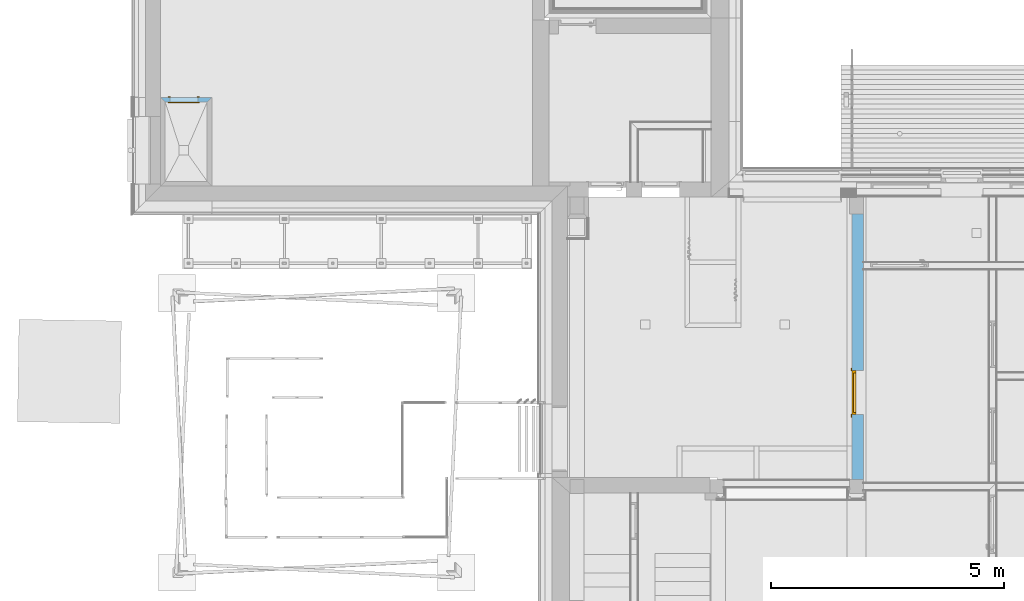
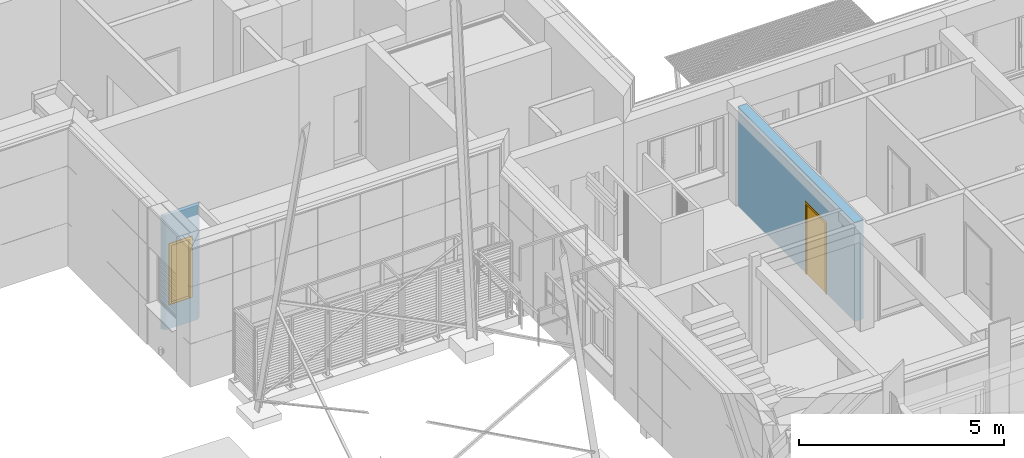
# One storey, part 88 of 418: 2 doors, 2 openings, plus 2 elements that do not belong to this part.
"""IFC2X3 building model written with IfcOpenShell, lengths in millimetres."""

from ifc_helpers import new_model, entity, si_unit, converted_unit, derived_unit, money_unit, direction, frame, origin_with_axes, origin_2d_with_axis, place, context, subcontext, project, spatial, polyline, rectangle, outline, extrude, faceted_brep, material, layer, layer_set, layer_usage, type_object, element, fill, save


model = new_model("IFC2X3")

# Units and contexts
model_context = context("Model", 3, precision=0.01, world=origin_with_axes(), true_north=direction((0.0, 1.0)))
body_context = subcontext(model_context, "Body", "Model", "MODEL_VIEW")
ifc_project = project(units=[si_unit("LENGTHUNIT", "METRE", prefix="MILLI"), si_unit("AREAUNIT", "SQUARE_METRE"), si_unit("VOLUMEUNIT", "CUBIC_METRE"), converted_unit("PLANEANGLEUNIT", "DEGREE", entity("IfcPlaneAngleMeasure", 0.0174532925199), si_unit("PLANEANGLEUNIT", "RADIAN"), dimensions=[0, 0, 0, 0, 0, 0, 0]), si_unit("SOLIDANGLEUNIT", "STERADIAN"), money_unit("EUR"), converted_unit("TIMEUNIT", "Year", entity("IfcTimeMeasure", 31556926.0), si_unit("TIMEUNIT", "SECOND"), dimensions=[0, 0, 1, 0, 0, 0, 0]), si_unit("MASSUNIT", "GRAM", prefix="KILO"), si_unit("THERMODYNAMICTEMPERATUREUNIT", "DEGREE_CELSIUS"), si_unit("LUMINOUSINTENSITYUNIT", "LUMEN"), si_unit("ENERGYUNIT", "JOULE", prefix="MEGA"), derived_unit("THERMALCONDUCTANCEUNIT", [(si_unit("POWERUNIT", "WATT"), 1), (si_unit("LENGTHUNIT", "METRE"), -1), (si_unit("THERMODYNAMICTEMPERATUREUNIT", "KELVIN"), -1)]), derived_unit("SPECIFICHEATCAPACITYUNIT", [(si_unit("ENERGYUNIT", "JOULE"), 1), (si_unit("MASSUNIT", "GRAM", prefix="KILO"), -1), (si_unit("THERMODYNAMICTEMPERATUREUNIT", "KELVIN"), -1)]), derived_unit("MASSDENSITYUNIT", [(si_unit("MASSUNIT", "GRAM", prefix="KILO"), 1), (si_unit("VOLUMEUNIT", "CUBIC_METRE"), -1)])], contexts=[model_context])

# Site, building, storey
site_placement = place(None, origin_with_axes())
site = spatial("IfcSite", under=ifc_project, at=site_placement, Name="Paldiski mnt 245/1, Tallinn, Harjumaa", CompositionType="COMPLEX")
building_placement = place(site_placement, origin_with_axes())
building = spatial("IfcBuilding", under=site, at=building_placement, Name="RKAS Hoone üldnimetus (kasutust iseloomustav) -> IFC Project Manager -> SOLIBRI", CompositionType="ELEMENT")
storey_placement = place(building_placement, origin_with_axes())
storey = spatial("IfcBuildingStorey", under=building, at=storey_placement, Name="Esimene korrus", CompositionType="ELEMENT", Elevation=0.0)

# Wall, opening, door
ifc_material_1 = material(Name="Olemasolev silikaattellis")
ifc_layer_1 = layer(ifc_material_1, 250.0, ventilated="UNKNOWN")
ifc_layer_set_1 = layer_set([ifc_layer_1], Name="Olemasolev silikaattellis 250")
ifc_layer_usage_1 = layer_usage(ifc_layer_set_1, "AXIS2", "NEGATIVE", 0.0)
wall_type_1 = type_object("IfcWallType", Name="Olemasolev silikaattellis 250", PredefinedType="NOTDEFINED")
wall_1_placement = place(storey_placement, frame((-41290.0, -469.999999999, 0.0), z_axis=(0.0, 0.0, 1.0), x_axis=(0.0, -1.0, 0.0)))
wall_1 = element("IfcWallStandardCase", 1, at=wall_1_placement, inside=storey, type_object=wall_type_1, material=ifc_layer_usage_1, Name="SS-01", context=body_context, shape_type="SweptSolid", body=[
    extrude(outline(polyline([(0.0, -250.0), (5710.0, -250.0), (5710.0, 0.0), (0.0, 0.0), (0.0, -250.0)])), origin_with_axes(), (0.0, 0.0, 1.0), 2958.99991095),
])
opening_1_placement = place(wall_1_placement, frame((3840.0, 0.0, 0.0), z_axis=(0.0, 0.0, 1.0), x_axis=(1.0, 0.0, 0.0)))
opening_1 = element("IfcOpeningElement", 2, at=opening_1_placement, cuts=wall_1, Name="SU-07v", context=body_context, shape_type="SweptSolid", body=[
    extrude(rectangle(XDim=950.0, YDim=2100.0, at=origin_2d_with_axis()), frame((0.0, -155.0, 1050.0), z_axis=(0.0, -1.0, 0.0), x_axis=(-1.0, 0.0, 0.0)), (0.0, 0.0, -1.0), 405.0),
    extrude(rectangle(XDim=950.0, YDim=2100.0, at=origin_2d_with_axis()), frame((0.0, -155.0, 1050.0), z_axis=(0.0, 1.0, 0.0), x_axis=(-1.0, 0.0, 0.0)), (0.0, 0.0, -1.0), 345.0),
    extrude(rectangle(XDim=1064.0, YDim=2157.0, at=origin_2d_with_axis()), frame((0.0, -250.0, 1078.5), z_axis=(0.0, 1.0, 0.0), x_axis=(-1.0, 0.0, 0.0)), (0.0, 0.0, -1.0), 405.0),
])
door_style_1 = type_object("IfcDoorStyle", Name="Door 23", ConstructionType="NOTDEFINED", OperationType="SINGLE_SWING_RIGHT", ParameterTakesPrecedence=False, Sizeable=False)
door_1_placement = place(opening_1_placement, frame((475.0, 0.0, 0.0), z_axis=(0.0, 0.0, 1.0), x_axis=(-1.0, 0.0, 0.0)))
door_1 = element("IfcDoor", 3, at=door_1_placement, inside=storey, type_object=door_style_1, Name="SU-07v", ObjectType="DOOR", OverallHeight=2100.0, OverallWidth=950.0, context=body_context, shape_type="Brep", body=[
    faceted_brep([(900.0, 155.0, 0.0), (900.0, 210.0, 0.0), (900.0, 210.0, 20.0), (900.0, 155.0, 20.0), (50.0, 155.0, 0.0), (50.0, 210.0, 0.0), (38.0, 210.0, 0.0), (912.0, 210.0, 0.0), (912.0, 210.0, 20.0), (38.0, 210.0, 20.0), (50.0, 210.0, 20.0), (50.0, 155.0, 20.0)], [[[0, 1, 2, 3]], [[0, 4, 5, 6, 7, 1]], [[1, 7, 8, 2]], [[3, 2, 8, 9, 10, 11]], [[4, 0, 3, 11]], [[5, 4, 11, 10]], [[6, 5, 10, 9]], [[7, 6, 9, 8]]]),
    faceted_brep([(-57.0, 269.0, 0.0), (13.0, 269.0, 0.0), (13.0, 250.0, 0.0), (-57.0, 250.0, 0.0), (-57.0, 269.0, 2157.0), (13.0, 269.0, 2087.0), (13.0, 250.0, 2087.0), (-57.0, 250.0, 2157.0)], [[[0, 1, 2, 3]], [[0, 4, 5, 1]], [[1, 5, 6, 2]], [[3, 2, 6, 7]], [[4, 0, 3, 7]], [[5, 4, 7, 6]]]),
    faceted_brep([(1007.0, 269.0, 2157.0), (937.0, 269.0, 2087.0), (937.0, 250.0, 2087.0), (1007.0, 250.0, 2157.0), (1007.0, 269.0, 0.0), (937.0, 269.0, 0.0), (937.0, 250.0, 0.0), (1007.0, 250.0, 0.0)], [[[0, 1, 2, 3]], [[0, 4, 5, 1]], [[1, 5, 6, 2]], [[3, 2, 6, 7]], [[4, 0, 3, 7]], [[5, 4, 7, 6]]]),
    faceted_brep([(-57.0, 269.0, 2157.0), (13.0, 269.0, 2087.0), (13.0, 250.0, 2087.0), (-57.0, 250.0, 2157.0), (1007.0, 269.0, 2157.0), (937.0, 269.0, 2087.0), (937.0, 250.0, 2087.0), (1007.0, 250.0, 2157.0)], [[[0, 1, 2, 3]], [[0, 4, 5, 1]], [[1, 5, 6, 2]], [[3, 2, 6, 7]], [[4, 0, 3, 7]], [[5, 4, 7, 6]]]),
    faceted_brep([(50.0, 210.0, 0.0), (50.0, 210.0, 2050.0), (50.0, 155.0, 2050.0), (50.0, 155.0, 0.0), (38.0, 210.0, 2050.0), (38.0, 210.0, 0.0), (38.0, 250.0, 2050.0), (0.0, 250.0, 2050.0), (0.0, 155.0, 2050.0), (0.0, 155.0, 0.0), (0.0, 250.0, 0.0), (38.0, 250.0, 0.0)], [[[0, 1, 2, 3]], [[4, 1, 0, 5]], [[4, 6, 7, 8, 2, 1]], [[3, 2, 8, 9]], [[5, 0, 3, 9, 10, 11]], [[6, 4, 5, 11]], [[6, 11, 10, 7]], [[10, 9, 8, 7]]]),
    faceted_brep([(912.0, 210.0, 2050.0), (900.0, 210.0, 2050.0), (900.0, 155.0, 2050.0), (950.0, 155.0, 2050.0), (950.0, 250.0, 2050.0), (912.0, 250.0, 2050.0), (912.0, 210.0, 0.0), (900.0, 210.0, 0.0), (900.0, 155.0, 0.0), (950.0, 155.0, 0.0), (950.0, 250.0, 0.0), (912.0, 250.0, 0.0)], [[[0, 1, 2, 3, 4, 5]], [[1, 0, 6, 7]], [[1, 7, 8, 2]], [[3, 2, 8, 9]], [[4, 3, 9, 10]], [[11, 5, 4, 10]], [[0, 5, 11, 6]], [[6, 11, 10, 9, 8, 7]]]),
    faceted_brep([(38.0, 250.0, 2062.0), (38.0, 250.0, 2050.0), (0.0, 250.0, 2050.0), (0.0, 250.0, 2100.0), (950.0, 250.0, 2100.0), (950.0, 250.0, 2050.0), (912.0, 250.0, 2050.0), (912.0, 250.0, 2062.0), (38.0, 210.0, 2062.0), (38.0, 210.0, 2050.0), (50.0, 210.0, 2050.0), (50.0, 155.0, 2050.0), (0.0, 155.0, 2050.0), (0.0, 155.0, 2100.0), (950.0, 155.0, 2100.0), (950.0, 155.0, 2050.0), (912.0, 210.0, 2050.0), (900.0, 155.0, 2050.0), (900.0, 210.0, 2050.0), (912.0, 210.0, 2062.0)], [[[0, 1, 2, 3, 4, 5, 6, 7]], [[1, 0, 8, 9]], [[9, 10, 11, 12, 2, 1]], [[2, 12, 13, 3]], [[3, 13, 14, 4]], [[4, 14, 15, 5]], [[16, 6, 5, 15, 17, 18]], [[7, 6, 16, 19]], [[0, 7, 19, 8]], [[16, 18, 10, 9, 8, 19]], [[10, 18, 17, 11]], [[17, 15, 14, 13, 12, 11]]]),
    faceted_brep([(912.0, 250.0, 0.0), (912.0, 210.0, 0.0), (38.0, 210.0, 0.0), (38.0, 250.0, 0.0), (912.0, 250.0, 2062.0), (912.0, 210.0, 2062.0), (38.0, 210.0, 2062.0), (38.0, 250.0, 2062.0)], [[[0, 1, 2, 3]], [[4, 5, 1, 0]], [[1, 5, 6, 2]], [[3, 2, 6, 7]], [[0, 3, 7, 4]], [[7, 6, 5, 4]]]),
])
fill(opening_1, door_1)

ifc_material_2 = material(Name="SP2B E-PIR")
ifc_layer_2 = layer(ifc_material_2, 100.0, ventilated="UNKNOWN")
ifc_layer_set_2 = layer_set([ifc_layer_2], Name="SS-13")
ifc_layer_usage_2 = layer_usage(ifc_layer_set_2, "AXIS2", "NEGATIVE", 100.0)
wall_type_2 = type_object("IfcWallType", Name="SS-13 100", PredefinedType="NOTDEFINED")
wall_2_placement = place(storey_placement, frame((-56290.0, 1929.99992126, 0.0), z_axis=(0.0, 0.0, 1.0), x_axis=(1.0, 0.0, 0.0)))
wall_2 = element("IfcWallStandardCase", 4, at=wall_2_placement, inside=storey, type_object=wall_type_2, material=ifc_layer_usage_2, Name="SS-13", context=body_context, shape_type="SweptSolid", body=[
    extrude(outline(polyline([(0.0, 0.0), (900.000023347, 0.0), (1000.00002335, 100.0), (-100.0, 100.0), (0.0, 0.0)])), origin_with_axes(), (0.0, 0.0, 1.0), 3411.80696097),
])
opening_2_placement = place(wall_2_placement, frame((400.000023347, 0.0, 723.0), z_axis=(0.0, 0.0, 1.0), x_axis=(1.0, 0.0, 0.0)))
opening_2 = element("IfcOpeningElement", 5, at=opening_2_placement, cuts=wall_2, Name="SU-16v", context=body_context, shape_type="SweptSolid", body=[
    extrude(rectangle(XDim=600.0, YDim=1800.0, at=origin_2d_with_axis()), frame((0.0, -100.0, 900.0), z_axis=(0.0, -1.0, 0.0), x_axis=(-1.0, 0.0, 0.0)), (0.0, 0.0, -1.0), 300.0),
    extrude(rectangle(XDim=674.0, YDim=1837.0, at=origin_2d_with_axis()), frame((0.0, 0.0, 918.5), z_axis=(0.0, -1.0, 0.0), x_axis=(-1.0, 0.0, 0.0)), (0.0, 0.0, 1.0), 100.0),
    extrude(rectangle(XDim=674.0, YDim=1837.0, at=origin_2d_with_axis()), frame((0.0, 100.0, 918.5), z_axis=(0.0, 1.0, 0.0), x_axis=(-1.0, 0.0, 0.0)), (0.0, 0.0, 1.0), 100.0),
])
door_style_2 = type_object("IfcDoorStyle", Name="Door 23", ConstructionType="NOTDEFINED", OperationType="SINGLE_SWING_LEFT", ParameterTakesPrecedence=False, Sizeable=False)
door_2_placement = place(opening_2_placement, frame((-300.0, 0.0, 0.0), z_axis=(0.0, 0.0, 1.0), x_axis=(1.0, 0.0, 0.0)))
door_2 = element("IfcDoor", 6, at=door_2_placement, inside=storey, type_object=door_style_2, Name="SU-16v", ObjectType="DOOR", OverallHeight=1800.0, OverallWidth=600.0, context=body_context, shape_type="Brep", body=[
    faceted_brep([(28.0, 60.0, 0.0), (40.0, 60.0, 0.0), (40.0, 60.0, 20.0), (28.0, 60.0, 20.0), (572.0, 60.0, 0.0), (560.0, 60.0, 0.0), (560.0, -15.0, 0.0), (40.0, -15.0, 0.0), (40.0, -15.0, 20.0), (560.0, -15.0, 20.0), (560.0, 60.0, 20.0), (572.0, 60.0, 20.0)], [[[0, 1, 2, 3]], [[0, 4, 5, 6, 7, 1]], [[1, 7, 8, 2]], [[3, 2, 8, 9, 10, 11]], [[4, 0, 3, 11]], [[5, 4, 11, 10]], [[6, 5, 10, 9]], [[7, 6, 9, 8]]]),
    faceted_brep([(637.0, -19.0, 0.0), (587.0, -19.0, 0.0), (587.0, 0.0, 0.0), (637.0, 0.0, 0.0), (637.0, -19.0, 1837.0), (587.0, -19.0, 1787.0), (587.0, 0.0, 1787.0), (637.0, 0.0, 1837.0)], [[[0, 1, 2, 3]], [[0, 4, 5, 1]], [[1, 5, 6, 2]], [[3, 2, 6, 7]], [[4, 0, 3, 7]], [[5, 4, 7, 6]]]),
    faceted_brep([(-37.0, -19.0, 1837.0), (13.0, -19.0, 1787.0), (13.0, 0.0, 1787.0), (-37.0, 0.0, 1837.0), (-37.0, -19.0, 0.0), (13.0, -19.0, 0.0), (13.0, 0.0, 0.0), (-37.0, 0.0, 0.0)], [[[0, 1, 2, 3]], [[0, 4, 5, 1]], [[1, 5, 6, 2]], [[3, 2, 6, 7]], [[4, 0, 3, 7]], [[5, 4, 7, 6]]]),
    faceted_brep([(637.0, -19.0, 1837.0), (587.0, -19.0, 1787.0), (587.0, 0.0, 1787.0), (637.0, 0.0, 1837.0), (-37.0, -19.0, 1837.0), (13.0, -19.0, 1787.0), (13.0, 0.0, 1787.0), (-37.0, 0.0, 1837.0)], [[[0, 1, 2, 3]], [[0, 4, 5, 1]], [[1, 5, 6, 2]], [[3, 2, 6, 7]], [[4, 0, 3, 7]], [[5, 4, 7, 6]]]),
    faceted_brep([(637.0, 119.0, 0.0), (637.0, 100.0, 0.0), (587.0, 100.0, 0.0), (587.0, 119.0, 0.0), (637.0, 119.0, 1837.0), (637.0, 100.0, 1837.0), (587.0, 100.0, 1787.0), (587.0, 119.0, 1787.0)], [[[0, 1, 2, 3]], [[4, 5, 1, 0]], [[1, 5, 6, 2]], [[3, 2, 6, 7]], [[0, 3, 7, 4]], [[7, 6, 5, 4]]]),
    faceted_brep([(-37.0, 119.0, 1837.0), (-37.0, 100.0, 1837.0), (13.0, 100.0, 1787.0), (13.0, 119.0, 1787.0), (-37.0, 119.0, 0.0), (-37.0, 100.0, 0.0), (13.0, 100.0, 0.0), (13.0, 119.0, 0.0)], [[[0, 1, 2, 3]], [[4, 5, 1, 0]], [[1, 5, 6, 2]], [[3, 2, 6, 7]], [[0, 3, 7, 4]], [[7, 6, 5, 4]]]),
    faceted_brep([(637.0, 119.0, 1837.0), (637.0, 100.0, 1837.0), (587.0, 100.0, 1787.0), (587.0, 119.0, 1787.0), (-37.0, 119.0, 1837.0), (-37.0, 100.0, 1837.0), (13.0, 100.0, 1787.0), (13.0, 119.0, 1787.0)], [[[0, 1, 2, 3]], [[4, 5, 1, 0]], [[1, 5, 6, 2]], [[3, 2, 6, 7]], [[0, 3, 7, 4]], [[7, 6, 5, 4]]]),
    faceted_brep([(560.0, 60.0, 0.0), (560.0, -15.0, 0.0), (560.0, -15.0, 1760.0), (560.0, 60.0, 1760.0), (572.0, 60.0, 0.0), (572.0, 100.0, 0.0), (600.0, 100.0, 0.0), (600.0, -15.0, 0.0), (600.0, -15.0, 1760.0), (572.0, 60.0, 1760.0), (600.0, 100.0, 1760.0), (572.0, 100.0, 1760.0)], [[[0, 1, 2, 3]], [[4, 5, 6, 7, 1, 0]], [[1, 7, 8, 2]], [[9, 3, 2, 8, 10, 11]], [[9, 4, 0, 3]], [[11, 5, 4, 9]], [[11, 10, 6, 5]], [[6, 10, 8, 7]]]),
    faceted_brep([(28.0, 60.0, 1760.0), (28.0, 100.0, 1760.0), (0.0, 100.0, 1760.0), (0.0, -15.0, 1760.0), (40.0, -15.0, 1760.0), (40.0, 60.0, 1760.0), (28.0, 60.0, 0.0), (28.0, 100.0, 0.0), (0.0, 100.0, 0.0), (0.0, -15.0, 0.0), (40.0, -15.0, 0.0), (40.0, 60.0, 0.0)], [[[0, 1, 2, 3, 4, 5]], [[0, 6, 7, 1]], [[7, 8, 2, 1]], [[2, 8, 9, 3]], [[3, 9, 10, 4]], [[5, 4, 10, 11]], [[5, 11, 6, 0]], [[6, 11, 10, 9, 8, 7]]]),
    faceted_brep([(572.0, 100.0, 1772.0), (28.0, 100.0, 1772.0), (28.0, 100.0, 1760.0), (0.0, 100.0, 1760.0), (0.0, 100.0, 1800.0), (600.0, 100.0, 1800.0), (600.0, 100.0, 1760.0), (572.0, 100.0, 1760.0), (572.0, 60.0, 1772.0), (28.0, 60.0, 1772.0), (28.0, 60.0, 1760.0), (40.0, 60.0, 1760.0), (40.0, -15.0, 1760.0), (0.0, -15.0, 1760.0), (0.0, -15.0, 1800.0), (600.0, -15.0, 1800.0), (600.0, -15.0, 1760.0), (572.0, 60.0, 1760.0), (560.0, -15.0, 1760.0), (560.0, 60.0, 1760.0)], [[[0, 1, 2, 3, 4, 5, 6, 7]], [[0, 8, 9, 1]], [[1, 9, 10, 2]], [[10, 11, 12, 13, 3, 2]], [[4, 3, 13, 14]], [[5, 4, 14, 15]], [[6, 5, 15, 16]], [[17, 7, 6, 16, 18, 19]], [[7, 17, 8, 0]], [[10, 9, 8, 17, 19, 11]], [[19, 18, 12, 11]], [[12, 18, 16, 15, 14, 13]]]),
    faceted_brep([(28.0, 100.0, 0.0), (572.0, 100.0, 0.0), (572.0, 60.0, 0.0), (28.0, 60.0, 0.0), (28.0, 100.0, 1772.0), (572.0, 100.0, 1772.0), (572.0, 60.0, 1772.0), (28.0, 60.0, 1772.0)], [[[0, 1, 2, 3]], [[0, 4, 5, 1]], [[1, 5, 6, 2]], [[3, 2, 6, 7]], [[4, 0, 3, 7]], [[5, 4, 7, 6]]]),
])
fill(opening_2, door_2)

save(model, "model.ifc")
